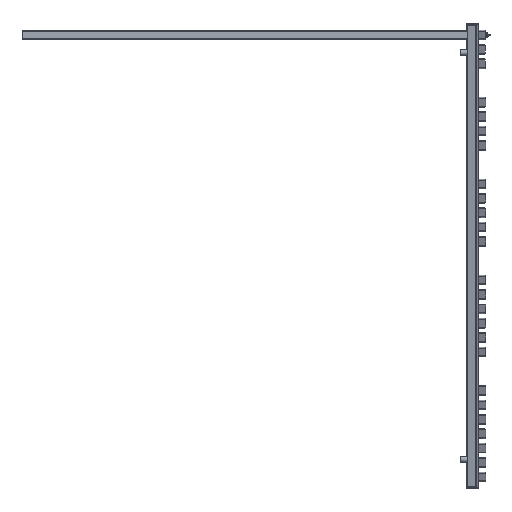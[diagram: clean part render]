
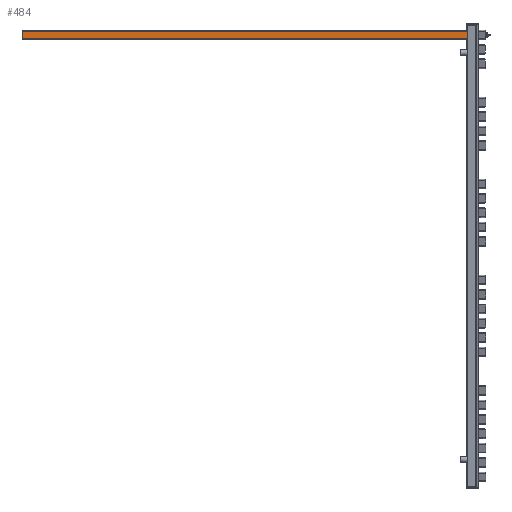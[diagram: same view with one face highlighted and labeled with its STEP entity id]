
A CAD part, left-side view. The second image highlights one B-rep face of the part: STEP entity #484.
In plain terms, the highlighted planar face has unit normal (-1, 0, 0).
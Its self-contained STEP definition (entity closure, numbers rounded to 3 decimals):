
#484 = ADVANCED_FACE( '', ( #1160 ), #1161, .T. );
#1160 = FACE_OUTER_BOUND( '', #2106, .T. );
#1161 = PLANE( '', #2107 );
#2106 = EDGE_LOOP( '', ( #3473, #3474, #3475, #3476 ) );
#2107 = AXIS2_PLACEMENT_3D( '', #3477, #3478, #3479 );
#3473 = ORIENTED_EDGE( '', *, *, #5772, .T. );
#3474 = ORIENTED_EDGE( '', *, *, #5773, .T. );
#3475 = ORIENTED_EDGE( '', *, *, #5672, .F. );
#3476 = ORIENTED_EDGE( '', *, *, #5443, .T. );
#3477 = CARTESIAN_POINT( '', ( -15., 1446., 15. ) );
#3478 = DIRECTION( '', ( -1., 0., 0. ) );
#3479 = DIRECTION( '', ( 0., 0., 1. ) );
#5443 = EDGE_CURVE( '', #6503, #6500, #6504, .F. );
#5672 = EDGE_CURVE( '', #6503, #6896, #6897, .T. );
#5772 = EDGE_CURVE( '', #6500, #7059, #7060, .T. );
#5773 = EDGE_CURVE( '', #7059, #6896, #7061, .T. );
#6500 = VERTEX_POINT( '', #8060 );
#6503 = VERTEX_POINT( '', #8063 );
#6504 = LINE( '', #8064, #8065 );
#6896 = VERTEX_POINT( '', #8585 );
#6897 = LINE( '', #8586, #8587 );
#7059 = VERTEX_POINT( '', #8795 );
#7060 = LINE( '', #8796, #8797 );
#7061 = LINE( '', #8798, #8799 );
#8060 = CARTESIAN_POINT( '', ( -15., 1446., 12. ) );
#8063 = CARTESIAN_POINT( '', ( -15., 0., 12. ) );
#8064 = CARTESIAN_POINT( '', ( -15., 1446., 12. ) );
#8065 = VECTOR( '', #10017, 1000. );
#8585 = CARTESIAN_POINT( '', ( -15., 0., -12. ) );
#8586 = CARTESIAN_POINT( '', ( -15., 0., 15. ) );
#8587 = VECTOR( '', #10302, 1000. );
#8795 = CARTESIAN_POINT( '', ( -15., 1446., -12. ) );
#8796 = CARTESIAN_POINT( '', ( -15., 1446., 15. ) );
#8797 = VECTOR( '', #10439, 1000. );
#8798 = CARTESIAN_POINT( '', ( -15., 1446., -12. ) );
#8799 = VECTOR( '', #10440, 1000. );
#10017 = DIRECTION( '', ( 0., -1., 0. ) );
#10302 = DIRECTION( '', ( 0., 0., -1. ) );
#10439 = DIRECTION( '', ( 0., 0., -1. ) );
#10440 = DIRECTION( '', ( 0., -1., 0. ) );
